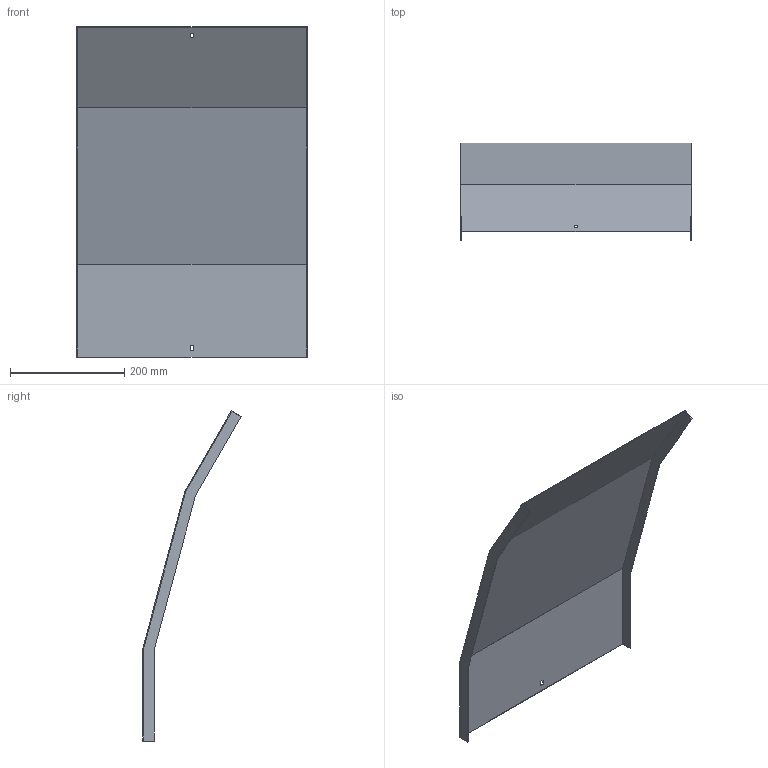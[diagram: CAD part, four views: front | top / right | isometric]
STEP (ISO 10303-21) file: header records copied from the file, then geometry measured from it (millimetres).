
FILE_DESCRIPTION (( 'STEP AP214' ), '1' );
FILE_NAME ('35N5C400.step', '2025-02-21T10:28:34', ( '' ), ( '' ), 'SwSTEP 2.0', 'SolidWorks 2023', '' );
FILE_SCHEMA (( 'AUTOMOTIVE_DESIGN' ));
Length unit declared in the file: millimetre
Products named in the file (1): 35N5C400
Bounding box: 403 x 172.21 x 578.06 mm (x, y, z)
Volume: 401562.8 mm3; surface area: 538628.3 mm2
Topology: 1 solids, 1 shells, 26 faces, 72 edges, 48 vertices
Faces by surface type: plane 26
Entity records: 847 total; most frequent: CARTESIAN_POINT 147, ORIENTED_EDGE 144, DIRECTION 126, LINE 72, EDGE_CURVE 72, VECTOR 72, VERTEX_POINT 48, EDGE_LOOP 30
